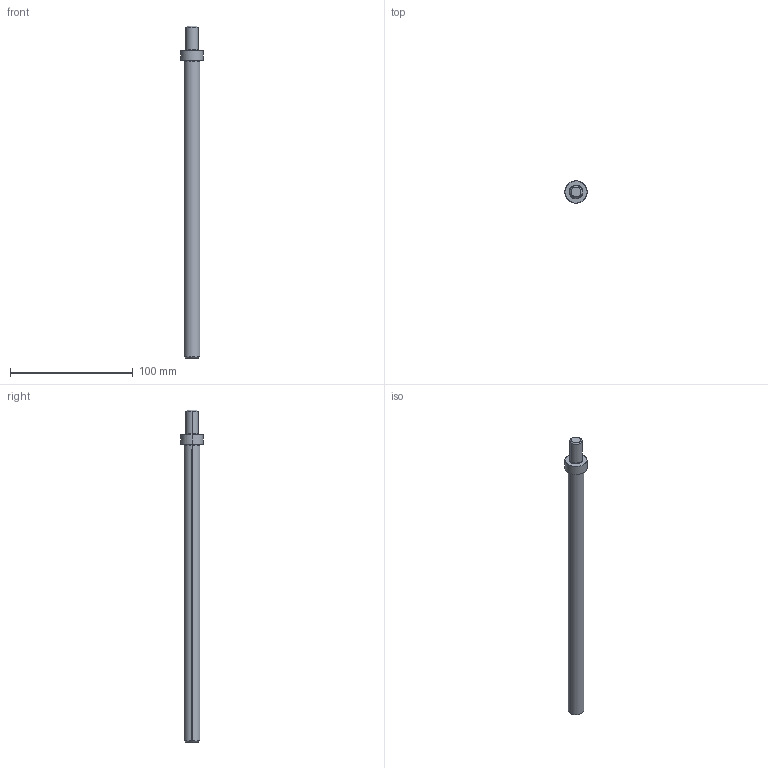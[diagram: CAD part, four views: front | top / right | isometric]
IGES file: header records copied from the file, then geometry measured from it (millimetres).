
Global section: file name: E:\UnigraphicsGraphicData\MISUMI_PRESS-PARTS\IGES\3d_lcp13-250-20_06984_r00.igs; native system: NX V5.0; preprocessor: UGS NX IGES V5.0; author: MISUMI; date: 20110105.161155; units: millimetre
Bounding box: 18 x 18 x 270 mm (x, y, z)
Surface area: 11414.2 mm2 (no closed solid volume)
Topology: 0 solids, 0 shells, 18 faces, 104 edges, 104 vertices
Faces by surface type: bspline 18
